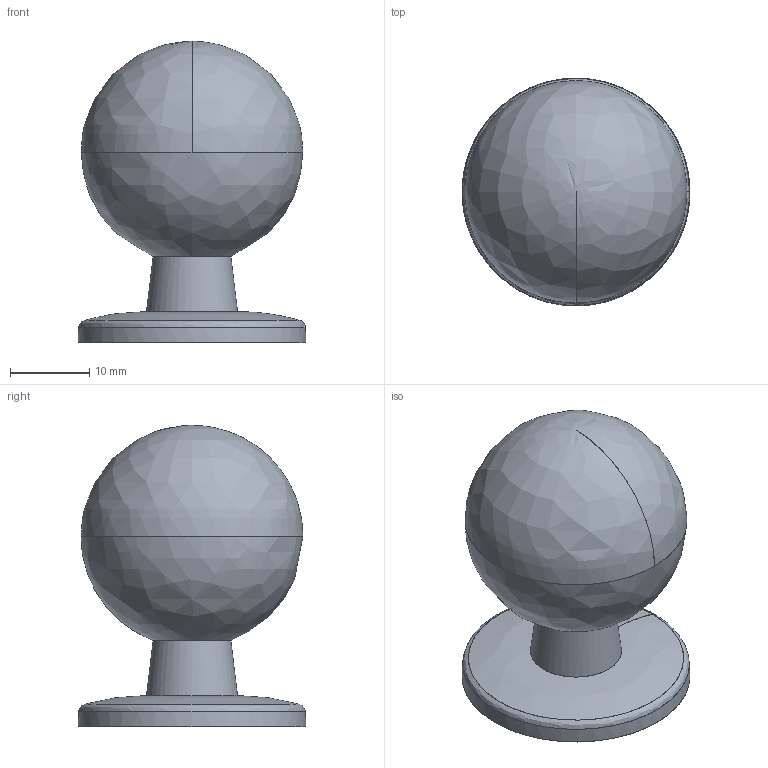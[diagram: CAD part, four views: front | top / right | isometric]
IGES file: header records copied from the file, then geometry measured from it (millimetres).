
Start section: C
Global section: file name: 8057.igs; native system: By Siemens PLM Incorporated; preprocessor: XPlus GENERIC/IGES 16.0.42; author: Author; organization: Title; date: 20210505.105326; units: millimetre
Bounding box: 28.75 x 28.73 x 38 mm (x, y, z)
Surface area: 7922.7 mm2 (no closed solid volume)
Topology: 0 solids, 0 shells, 60 faces, 335 edges, 332 vertices
Faces by surface type: bspline 60
